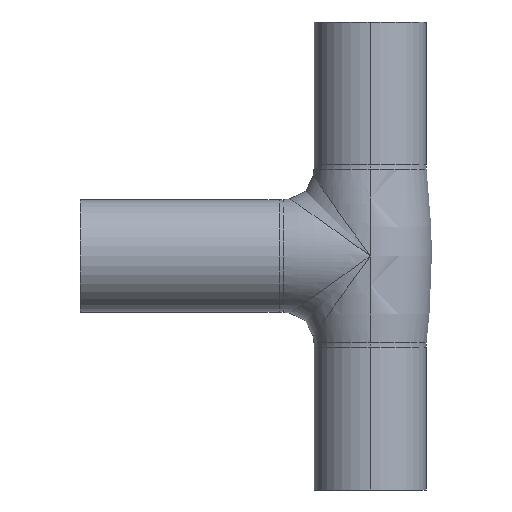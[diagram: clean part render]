
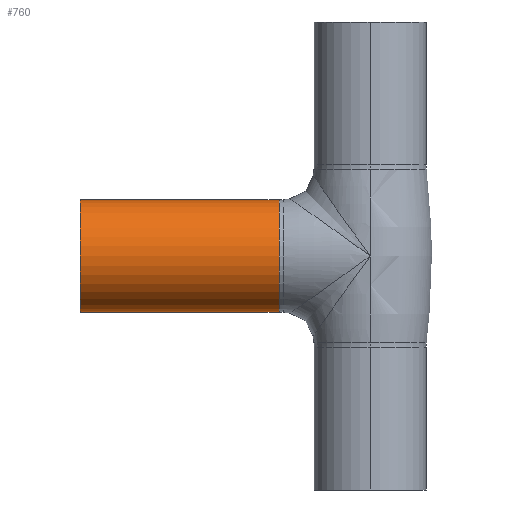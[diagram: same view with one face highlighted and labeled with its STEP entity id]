
A CAD part, left-side view. The second image highlights one B-rep face of the part: STEP entity #760.
In plain terms, the highlighted cylindrical face has radius 31.5 mm (diameter 63 mm), a partial arc.
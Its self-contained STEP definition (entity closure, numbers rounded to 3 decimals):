
#451 = EDGE_LOOP ( 'NONE', ( #1005, #1006, #1007, #1008 ) ) ;
#594 = LINE ( 'NONE', #595, #2288 ) ;
#595 = CARTESIAN_POINT ( 'NONE',  ( -44.265, 177.987, 44.676 ) ) ;
#602 = DIRECTION ( 'NONE',  ( 0., -1., 0. ) ) ;
#607 = LINE ( 'NONE', #614, #2300 ) ;
#614 = CARTESIAN_POINT ( 'NONE',  ( -44.265, 177.987, -18.324 ) ) ;
#624 = DIRECTION ( 'NONE',  ( 0., -1., 0. ) ) ;
#709 = EDGE_CURVE ( 'NONE', #928, #894, #2587, .T. ) ;
#733 = EDGE_CURVE ( 'NONE', #925, #952, #2603, .T. ) ;
#760 = ADVANCED_FACE ( 'NONE', ( #1908 ), #1912, .T. ) ;
#894 = VERTEX_POINT ( 'NONE', #1250 ) ;
#925 = VERTEX_POINT ( 'NONE', #1298 ) ;
#928 = VERTEX_POINT ( 'NONE', #1303 ) ;
#952 = VERTEX_POINT ( 'NONE', #1347 ) ;
#1005 = ORIENTED_EDGE ( 'NONE', *, *, #2350, .F. ) ;
#1006 = ORIENTED_EDGE ( 'NONE', *, *, #709, .F. ) ;
#1007 = ORIENTED_EDGE ( 'NONE', *, *, #2357, .T. ) ;
#1008 = ORIENTED_EDGE ( 'NONE', *, *, #733, .T. ) ;
#1250 = CARTESIAN_POINT ( 'NONE',  ( -44.265, 177.987, 44.676 ) ) ;
#1298 = CARTESIAN_POINT ( 'NONE',  ( -44.265, 66.227, -18.324 ) ) ;
#1303 = CARTESIAN_POINT ( 'NONE',  ( -44.265, 177.987, -18.324 ) ) ;
#1347 = CARTESIAN_POINT ( 'NONE',  ( -44.265, 66.227, 44.676 ) ) ;
#1907 = DIRECTION ( 'NONE',  ( 0., -1., 0. ) ) ;
#1908 = FACE_OUTER_BOUND ( 'NONE', #451, .T. ) ;
#1910 = CARTESIAN_POINT ( 'NONE',  ( -44.265, 177.987, 13.176 ) ) ;
#1912 = CYLINDRICAL_SURFACE ( 'NONE', #2385, 31.5 ) ;
#1913 = DIRECTION ( 'NONE',  ( 0., 0., -1. ) ) ;
#2141 = CARTESIAN_POINT ( 'NONE',  ( -44.265, 66.227, 13.176 ) ) ;
#2142 = DIRECTION ( 'NONE',  ( 0., 1., 0. ) ) ;
#2143 = DIRECTION ( 'NONE',  ( 0., 0., -1. ) ) ;
#2288 = VECTOR ( 'NONE', #602, 1000. ) ;
#2300 = VECTOR ( 'NONE', #624, 1000. ) ;
#2350 = EDGE_CURVE ( 'NONE', #894, #952, #594, .T. ) ;
#2357 = EDGE_CURVE ( 'NONE', #928, #925, #607, .T. ) ;
#2385 = AXIS2_PLACEMENT_3D ( 'NONE', #1910, #1907, #1913 ) ;
#2587 = CIRCLE ( 'NONE', #2590, 31.5 ) ;
#2590 = AXIS2_PLACEMENT_3D ( 'NONE', #2670, #2671, #2672 ) ;
#2603 = CIRCLE ( 'NONE', #2604, 31.5 ) ;
#2604 = AXIS2_PLACEMENT_3D ( 'NONE', #2141, #2142, #2143 ) ;
#2670 = CARTESIAN_POINT ( 'NONE',  ( -44.265, 177.987, 13.176 ) ) ;
#2671 = DIRECTION ( 'NONE',  ( 0., 1., 0. ) ) ;
#2672 = DIRECTION ( 'NONE',  ( 0., 0., 1. ) ) ;
